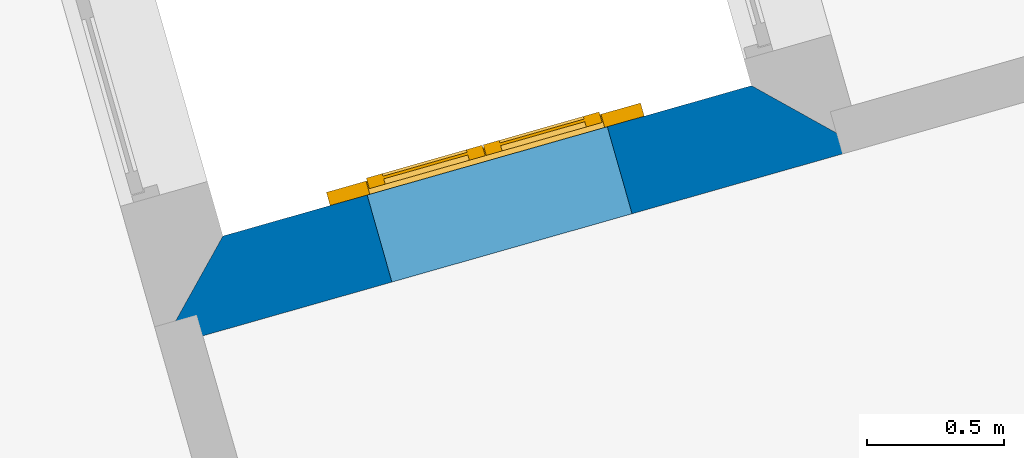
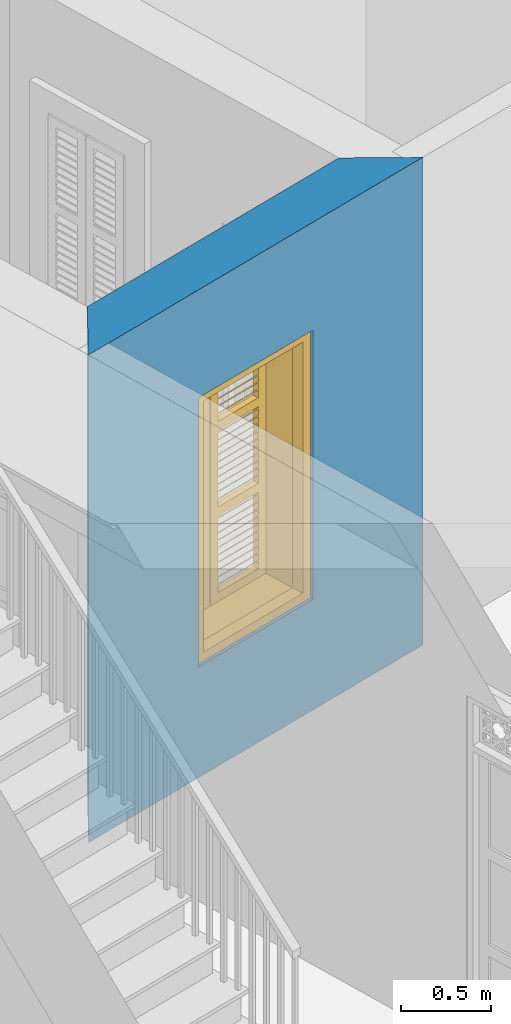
# One storey, part 6 of 14: 1 wall, 1 window, 1 opening.
"""IFC4 building model written with IfcOpenShell, lengths in metres."""

from ifc_helpers import new_model, si_unit, frame, origin, origin_with_axes, place, context, subcontext, project, spatial, polyline, outline, extrude, faceted_brep, source, transform, mapped, material, layer, layer_set, layer_usage, type_object, type_shapes, element, fill, save


model = new_model("IFC4")

# Units and contexts
model_context = context("Model", 3, world=origin_with_axes())
body_context = subcontext(model_context, "Body", "Model", "MODEL_VIEW")
ifc_project = project(units=[si_unit("PLANEANGLEUNIT", "RADIAN"), si_unit("MASSUNIT", "GRAM", prefix="KILO"), si_unit("FORCEUNIT", "NEWTON", prefix="KILO"), si_unit("LENGTHUNIT", "METRE"), si_unit("AREAUNIT", "SQUARE_METRE"), si_unit("VOLUMEUNIT", "CUBIC_METRE")], contexts=[model_context, model_context])

# Site, building, storey
site_placement = place(None, origin_with_axes())
site = spatial("IfcSite", under=ifc_project, at=site_placement, Name="Site plot-3", CompositionType="ELEMENT")
building_placement = place(None, origin_with_axes())
building = spatial("IfcBuilding", under=site, at=building_placement, Name="Building plot-3", CompositionType="ELEMENT")
storey_placement = place(None, origin_with_axes())
storey = spatial("IfcBuildingStorey", under=building, at=storey_placement, Name="plot-3 0", CompositionType="ELEMENT", Elevation=0.0)

# Wall, opening, window
ifc_material = material(Name="Masonry")
ifc_layer = layer(ifc_material, 0.33, ventilated=False)
ifc_layer_set = layer_set([ifc_layer], Name="exterior_0.08_0.25")
ifc_layer_usage = layer_usage(ifc_layer_set, "AXIS2", "POSITIVE", -0.25)
wall_type = type_object("IfcWallType", Name="exterior_0.08_0.25", PredefinedType="SOLIDWALL", material=ifc_layer_set)
wall_placement = place(storey_placement, frame((14.0119539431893, 20.3860923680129, 0.0), z_axis=(0.0, 0.0, 1.0), x_axis=(-0.961841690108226, -0.273606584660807, 0.0)))
wall = element("IfcWall", 1, at=wall_placement, inside=storey, type_object=wall_type, material=ifc_layer_usage, Name="exterior", context=body_context, shape_type="SweptSolid", body=[
    extrude(outline(polyline([(-0.0800000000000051, 0.0799999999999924), (0.250000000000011, -0.249999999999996), (2.2529377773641, -0.25), (2.58293777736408, 0.0799999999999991), (-0.0800000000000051, 0.0799999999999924)])), origin_with_axes(), (0.0, 0.0, 1.0), 3.3),
])
opening_placement = place(wall_placement, frame((0.796468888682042, 0.0, 0.75)))
opening = element("IfcOpeningElement", 2, at=opening_placement, cuts=wall, Name="My Opening", ObjectType="Opening", context=body_context, shape_type="SweptSolid", body=[
    extrude(outline(polyline([(0.0, -0.270000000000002), (0.910000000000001, -0.27), (0.91, 1.1), (-1.55431223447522e-15, 1.1), (0.0, -0.270000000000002)])), origin_with_axes(), (0.0, 0.0, 1.0), 1.82),
])
window_type = type_object("IfcWindowType", Name="shuttered_big", PartitioningType="DOUBLE_PANEL_HORIZONTAL", PredefinedType="NOTDEFINED")
shared_shape = source(origin(), body_context, "Body", "Brep", [
    faceted_brep([(0.074, 0.0, 0.810667), (0.393, 0.0, 0.810667), (0.393, 0.0, 0.800667), (0.074, 0.0, 0.800667), (0.074, -0.04, 0.770667), (0.393, -0.04, 0.770667), (0.393, -0.04, 0.760667), (0.074, -0.04, 0.760667), (0.517, 0.0, 0.232), (0.836, 0.0, 0.232), (0.836, 0.0, 0.222), (0.517, 0.0, 0.222), (0.517, -0.04, 0.192), (0.836, -0.04, 0.192), (0.836, -0.04, 0.182), (0.517, -0.04, 0.182), (0.517, 0.0, 0.532), (0.836, 0.0, 0.532), (0.836, 0.0, 0.522), (0.517, 0.0, 0.522), (0.517, -0.04, 0.492), (0.836, -0.04, 0.492), (0.836, -0.04, 0.482), (0.517, -0.04, 0.482), (0.517, 0.0, 0.482), (0.836, 0.0, 0.482), (0.836, 0.0, 0.472), (0.517, 0.0, 0.472), (0.517, -0.04, 0.442), (0.836, -0.04, 0.442), (0.836, -0.04, 0.432), (0.517, -0.04, 0.432), (0.517, 0.0, 0.582), (0.836, 0.0, 0.582), (0.836, 0.0, 0.572), (0.517, 0.0, 0.572), (0.517, -0.04, 0.542), (0.836, -0.04, 0.542), (0.836, -0.04, 0.532), (0.517, -0.04, 0.532), (0.517, 0.0, 0.182), (0.836, 0.0, 0.182), (0.836, 0.0, 0.172), (0.517, 0.0, 0.172), (0.517, -0.04, 0.142), (0.836, -0.04, 0.142), (0.836, -0.04, 0.132), (0.517, -0.04, 0.132), (0.517, 0.0, 0.382), (0.836, 0.0, 0.382), (0.836, 0.0, 0.372), (0.517, 0.0, 0.372), (0.517, -0.04, 0.342), (0.836, -0.04, 0.342), (0.836, -0.04, 0.332), (0.517, -0.04, 0.332), (0.517, 0.0, 0.432), (0.836, 0.0, 0.432), (0.836, 0.0, 0.422), (0.517, 0.0, 0.422), (0.517, -0.04, 0.392), (0.836, -0.04, 0.392), (0.836, -0.04, 0.382), (0.517, -0.04, 0.382), (0.517, 0.0, 0.132), (0.836, 0.0, 0.132), (0.836, 0.0, 0.122), (0.517, 0.0, 0.122), (0.517, -0.04, 0.092), (0.836, -0.04, 0.092), (0.836, -0.04, 0.082), (0.517, -0.04, 0.082), (0.517, 0.0, 0.282), (0.836, 0.0, 0.282), (0.836, 0.0, 0.272), (0.517, 0.0, 0.272), (0.517, -0.04, 0.242), (0.836, -0.04, 0.242), (0.836, -0.04, 0.232), (0.517, -0.04, 0.232), (0.517, 0.0, 0.332), (0.836, 0.0, 0.332), (0.836, 0.0, 0.322), (0.517, 0.0, 0.322), (0.517, -0.04, 0.292), (0.836, -0.04, 0.292), (0.836, -0.04, 0.282), (0.517, -0.04, 0.282), (0.517, 0.0, 0.810667), (0.836, 0.0, 0.810667), (0.836, 0.0, 0.800667), (0.517, 0.0, 0.800667), (0.517, -0.04, 0.770667), (0.836, -0.04, 0.770667), (0.836, -0.04, 0.760667), (0.517, -0.04, 0.760667), (0.517, 0.0, 1.110667), (0.836, 0.0, 1.110667), (0.836, 0.0, 1.100667), (0.517, 0.0, 1.100667), (0.517, -0.04, 1.070667), (0.836, -0.04, 1.070667), (0.836, -0.04, 1.060667), (0.517, -0.04, 1.060667), (0.517, 0.0, 1.060667), (0.836, 0.0, 1.060667), (0.836, 0.0, 1.050667), (0.517, 0.0, 1.050667), (0.517, -0.04, 1.020667), (0.836, -0.04, 1.020667), (0.836, -0.04, 1.010667), (0.517, -0.04, 1.010667), (0.517, 0.0, 1.160667), (0.836, 0.0, 1.160667), (0.836, 0.0, 1.150667), (0.517, 0.0, 1.150667), (0.517, -0.04, 1.120667), (0.836, -0.04, 1.120667), (0.836, -0.04, 1.110667), (0.517, -0.04, 1.110667), (0.517, 0.0, 0.760667), (0.836, 0.0, 0.760667), (0.836, 0.0, 0.750667), (0.517, 0.0, 0.750667), (0.517, -0.04, 0.720667), (0.836, -0.04, 0.720667), (0.836, -0.04, 0.710667), (0.517, -0.04, 0.710667), (0.517, 0.0, 0.960667), (0.836, 0.0, 0.960667), (0.836, 0.0, 0.950667), (0.517, 0.0, 0.950667), (0.517, -0.04, 0.920667), (0.836, -0.04, 0.920667), (0.836, -0.04, 0.910667), (0.517, -0.04, 0.910667), (0.517, 0.0, 1.010667), (0.836, 0.0, 1.010667), (0.836, 0.0, 1.0), (0.517, 0.0, 1.0), (0.517, -0.04, 0.970667), (0.836, -0.04, 0.970667), (0.836, -0.04, 0.960667), (0.517, -0.04, 0.960667), (0.517, 0.0, 0.710667), (0.836, 0.0, 0.710667), (0.836, 0.0, 0.700667), (0.517, 0.0, 0.700667), (0.517, -0.04, 0.670667), (0.836, -0.04, 0.670667), (0.836, -0.04, 0.660667), (0.517, -0.04, 0.660667), (0.517, 0.0, 0.860667), (0.836, 0.0, 0.860667), (0.836, 0.0, 0.850667), (0.517, 0.0, 0.850667), (0.517, -0.04, 0.820667), (0.836, -0.04, 0.820667), (0.836, -0.04, 0.810667), (0.517, -0.04, 0.810667), (0.517, 0.0, 0.910667), (0.836, 0.0, 0.910667), (0.836, 0.0, 0.900667), (0.517, 0.0, 0.900667), (0.517, -0.04, 0.870667), (0.836, -0.04, 0.870667), (0.836, -0.04, 0.860667), (0.517, -0.04, 0.860667), (0.517, 0.0, 1.389333), (0.836, 0.0, 1.389333), (0.836, 0.0, 1.379333), (0.517, 0.0, 1.379333), (0.517, -0.04, 1.349333), (0.836, -0.04, 1.349333), (0.836, -0.04, 1.339333), (0.517, -0.04, 1.339333), (0.517, 0.0, 1.689333), (0.836, 0.0, 1.689333), (0.836, 0.0, 1.679333), (0.517, 0.0, 1.679333), (0.517, -0.04, 1.649333), (0.836, -0.04, 1.649333), (0.836, -0.04, 1.639333), (0.517, -0.04, 1.639333), (0.517, 0.0, 1.639333), (0.836, 0.0, 1.639333), (0.836, 0.0, 1.629333), (0.517, 0.0, 1.629333), (0.517, -0.04, 1.599333), (0.836, -0.04, 1.599333), (0.836, -0.04, 1.589333), (0.517, -0.04, 1.589333), (0.517, 0.0, 1.739333), (0.836, 0.0, 1.739333), (0.836, 0.0, 1.729333), (0.517, 0.0, 1.729333), (0.517, -0.04, 1.699333), (0.836, -0.04, 1.699333), (0.836, -0.04, 1.689333), (0.517, -0.04, 1.689333), (0.517, 0.0, 1.339333), (0.836, 0.0, 1.339333), (0.836, 0.0, 1.329333), (0.517, 0.0, 1.329333), (0.517, -0.04, 1.299333), (0.836, -0.04, 1.299333), (0.836, -0.04, 1.289333), (0.517, -0.04, 1.289333), (0.517, 0.0, 1.539333), (0.836, 0.0, 1.539333), (0.836, 0.0, 1.529333), (0.517, 0.0, 1.529333), (0.517, -0.04, 1.499333), (0.836, -0.04, 1.499333), (0.836, -0.04, 1.489333), (0.517, -0.04, 1.489333), (0.517, 0.0, 1.589333), (0.836, 0.0, 1.589333), (0.836, 0.0, 1.579333), (0.517, 0.0, 1.579333), (0.517, -0.04, 1.549333), (0.836, -0.04, 1.549333), (0.836, -0.04, 1.539333), (0.517, -0.04, 1.539333), (0.517, 0.0, 1.289333), (0.836, 0.0, 1.289333), (0.836, 0.0, 1.279333), (0.517, 0.0, 1.279333), (0.517, -0.04, 1.249333), (0.836, -0.04, 1.249333), (0.836, -0.04, 1.239333), (0.517, -0.04, 1.239333), (0.517, 0.0, 1.439333), (0.836, 0.0, 1.439333), (0.836, 0.0, 1.429333), (0.517, 0.0, 1.429333), (0.517, -0.04, 1.399333), (0.836, -0.04, 1.399333), (0.836, -0.04, 1.389333), (0.517, -0.04, 1.389333), (0.517, 0.0, 1.489333), (0.836, 0.0, 1.489333), (0.836, 0.0, 1.479333), (0.517, 0.0, 1.479333), (0.517, -0.04, 1.449333), (0.836, -0.04, 1.449333), (0.836, -0.04, 1.439333), (0.517, -0.04, 1.439333), (0.074, 0.0, 0.232), (0.393, 0.0, 0.232), (0.393, 0.0, 0.222), (0.074, 0.0, 0.222), (0.074, -0.04, 0.192), (0.393, -0.04, 0.192), (0.393, -0.04, 0.182), (0.074, -0.04, 0.182), (0.074, 0.0, 0.532), (0.393, 0.0, 0.532), (0.393, 0.0, 0.522), (0.074, 0.0, 0.522), (0.074, -0.04, 0.492), (0.393, -0.04, 0.492), (0.393, -0.04, 0.482), (0.074, -0.04, 0.482), (0.074, 0.0, 0.482), (0.393, 0.0, 0.482), (0.393, 0.0, 0.472), (0.074, 0.0, 0.472), (0.074, -0.04, 0.442), (0.393, -0.04, 0.442), (0.393, -0.04, 0.432), (0.074, -0.04, 0.432), (0.074, 0.0, 0.582), (0.393, 0.0, 0.582), (0.393, 0.0, 0.572), (0.074, 0.0, 0.572), (0.074, -0.04, 0.542), (0.393, -0.04, 0.542), (0.393, -0.04, 0.532), (0.074, -0.04, 0.532), (0.074, 0.0, 0.182), (0.393, 0.0, 0.182), (0.393, 0.0, 0.172), (0.074, 0.0, 0.172), (0.074, -0.04, 0.142), (0.393, -0.04, 0.142), (0.393, -0.04, 0.132), (0.074, -0.04, 0.132), (0.074, 0.0, 0.382), (0.393, 0.0, 0.382), (0.393, 0.0, 0.372), (0.074, 0.0, 0.372), (0.074, -0.04, 0.342), (0.393, -0.04, 0.342), (0.393, -0.04, 0.332), (0.074, -0.04, 0.332), (0.074, 0.0, 0.432), (0.393, 0.0, 0.432), (0.393, 0.0, 0.422), (0.074, 0.0, 0.422), (0.074, -0.04, 0.392), (0.393, -0.04, 0.392), (0.393, -0.04, 0.382), (0.074, -0.04, 0.382), (0.074, 0.0, 0.132), (0.393, 0.0, 0.132), (0.393, 0.0, 0.122), (0.074, 0.0, 0.122), (0.074, -0.04, 0.092), (0.393, -0.04, 0.092), (0.393, -0.04, 0.082), (0.074, -0.04, 0.082), (0.074, 0.0, 0.282), (0.393, 0.0, 0.282), (0.393, 0.0, 0.272), (0.074, 0.0, 0.272), (0.074, -0.04, 0.242), (0.393, -0.04, 0.242), (0.393, -0.04, 0.232), (0.074, -0.04, 0.232), (0.074, 0.0, 0.332), (0.393, 0.0, 0.332), (0.393, 0.0, 0.322), (0.074, 0.0, 0.322), (0.074, -0.04, 0.292), (0.393, -0.04, 0.292), (0.393, -0.04, 0.282), (0.074, -0.04, 0.282), (0.074, 0.0, 1.110667), (0.393, 0.0, 1.110667), (0.393, 0.0, 1.100667), (0.074, 0.0, 1.100667), (0.074, -0.04, 1.070667), (0.393, -0.04, 1.070667), (0.393, -0.04, 1.060667), (0.074, -0.04, 1.060667), (0.074, 0.0, 1.060667), (0.393, 0.0, 1.060667), (0.393, 0.0, 1.050667), (0.074, 0.0, 1.050667), (0.074, -0.04, 1.020667), (0.393, -0.04, 1.020667), (0.393, -0.04, 1.010667), (0.074, -0.04, 1.010667), (0.074, 0.0, 1.160667), (0.393, 0.0, 1.160667), (0.393, 0.0, 1.150667), (0.074, 0.0, 1.150667), (0.074, -0.04, 1.120667), (0.393, -0.04, 1.120667), (0.393, -0.04, 1.110667), (0.074, -0.04, 1.110667), (0.074, 0.0, 0.760667), (0.393, 0.0, 0.760667), (0.393, 0.0, 0.750667), (0.074, 0.0, 0.750667), (0.074, -0.04, 0.720667), (0.393, -0.04, 0.720667), (0.393, -0.04, 0.710667), (0.074, -0.04, 0.710667), (0.074, 0.0, 0.960667), (0.393, 0.0, 0.960667), (0.393, 0.0, 0.950667), (0.074, 0.0, 0.950667), (0.074, -0.04, 0.920667), (0.393, -0.04, 0.920667), (0.393, -0.04, 0.910667), (0.074, -0.04, 0.910667), (0.074, 0.0, 1.010667), (0.393, 0.0, 1.010667), (0.393, 0.0, 1.0), (0.074, 0.0, 1.0), (0.074, -0.04, 0.970667), (0.393, -0.04, 0.970667), (0.393, -0.04, 0.960667), (0.074, -0.04, 0.960667), (0.074, 0.0, 0.710667), (0.393, 0.0, 0.710667), (0.393, 0.0, 0.700667), (0.074, 0.0, 0.700667), (0.074, -0.04, 0.670667), (0.393, -0.04, 0.670667), (0.393, -0.04, 0.660667), (0.074, -0.04, 0.660667), (0.074, 0.0, 0.860667), (0.393, 0.0, 0.860667), (0.393, 0.0, 0.850667), (0.074, 0.0, 0.850667), (0.074, -0.04, 0.820667), (0.393, -0.04, 0.820667), (0.393, -0.04, 0.810667), (0.074, -0.04, 0.810667), (0.074, 0.0, 0.910667), (0.393, 0.0, 0.910667), (0.393, 0.0, 0.900667), (0.074, 0.0, 0.900667), (0.074, -0.04, 0.870667), (0.393, -0.04, 0.870667), (0.393, -0.04, 0.860667), (0.074, -0.04, 0.860667), (0.074, 0.0, 1.389333), (0.393, 0.0, 1.389333), (0.393, 0.0, 1.379333), (0.074, 0.0, 1.379333), (0.074, -0.04, 1.349333), (0.393, -0.04, 1.349333), (0.393, -0.04, 1.339333), (0.074, -0.04, 1.339333), (0.074, 0.0, 1.689333), (0.393, 0.0, 1.689333), (0.393, 0.0, 1.679333), (0.074, 0.0, 1.679333), (0.074, -0.04, 1.649333), (0.393, -0.04, 1.649333), (0.393, -0.04, 1.639333), (0.074, -0.04, 1.639333), (0.074, 0.0, 1.639333), (0.393, 0.0, 1.639333), (0.393, 0.0, 1.629333), (0.074, 0.0, 1.629333), (0.074, -0.04, 1.599333), (0.393, -0.04, 1.599333), (0.393, -0.04, 1.589333), (0.074, -0.04, 1.589333), (0.074, 0.0, 1.739333), (0.393, 0.0, 1.739333), (0.393, 0.0, 1.729333), (0.074, 0.0, 1.729333), (0.074, -0.04, 1.699333), (0.393, -0.04, 1.699333), (0.393, -0.04, 1.689333), (0.074, -0.04, 1.689333), (0.074, 0.0, 1.339333), (0.393, 0.0, 1.339333), (0.393, 0.0, 1.329333), (0.074, 0.0, 1.329333), (0.074, -0.04, 1.299333), (0.393, -0.04, 1.299333), (0.393, -0.04, 1.289333), (0.074, -0.04, 1.289333), (0.074, 0.0, 1.539333), (0.393, 0.0, 1.539333), (0.393, 0.0, 1.529333), (0.074, 0.0, 1.529333), (0.074, -0.04, 1.499333), (0.393, -0.04, 1.499333), (0.393, -0.04, 1.489333), (0.074, -0.04, 1.489333), (0.074, 0.0, 1.589333), (0.393, 0.0, 1.589333), (0.393, 0.0, 1.579333), (0.074, 0.0, 1.579333), (0.074, -0.04, 1.549333), (0.393, -0.04, 1.549333), (0.393, -0.04, 1.539333), (0.074, -0.04, 1.539333), (0.074, 0.0, 1.289333), (0.393, 0.0, 1.289333), (0.393, 0.0, 1.279333), (0.074, 0.0, 1.279333), (0.074, -0.04, 1.249333), (0.393, -0.04, 1.249333), (0.393, -0.04, 1.239333), (0.074, -0.04, 1.239333), (0.074, 0.0, 1.439333), (0.393, 0.0, 1.439333), (0.393, 0.0, 1.429333), (0.074, 0.0, 1.429333), (0.074, -0.04, 1.399333), (0.393, -0.04, 1.399333), (0.393, -0.04, 1.389333), (0.074, -0.04, 1.389333), (0.074, 0.0, 1.489333), (0.393, 0.0, 1.489333), (0.393, 0.0, 1.479333), (0.074, 0.0, 1.479333), (0.074, -0.04, 1.449333), (0.393, -0.04, 1.449333), (0.393, -0.04, 1.439333), (0.074, -0.04, 1.439333), (0.517, -0.04, 0.072), (0.457, -0.04, 0.012), (0.896, -0.04, 0.012), (0.836, -0.04, 0.072), (0.457, -0.04, 0.590667), (0.517, -0.04, 0.590667), (0.457, 0.0, 0.012), (0.896, 0.0, 0.012), (0.836, -0.04, 0.590667), (0.896, -0.04, 0.590667), (0.836, 0.0, 0.072), (0.517, 0.0, 0.072), (0.457, 0.0, 0.590667), (0.517, 0.0, 0.590667), (0.517, -0.04, 0.650667), (0.457, -0.04, 0.650667), (0.896, 0.0, 0.590667), (0.836, 0.0, 0.590667), (0.836, -0.04, 0.650667), (0.896, -0.04, 0.650667), (0.457, 0.0, 0.650667), (0.457, -0.04, 1.169333), (0.517, -0.04, 1.169333), (0.896, 0.0, 0.650667), (0.836, -0.04, 1.169333), (0.896, -0.04, 1.169333), (0.457, 0.0, 1.169333), (0.517, 0.0, 0.650667), (0.836, 0.0, 0.650667), (0.517, 0.0, 1.169333), (0.517, -0.04, 1.229333), (0.457, -0.04, 1.229333), (0.896, 0.0, 1.169333), (0.836, 0.0, 1.169333), (0.836, -0.04, 1.229333), (0.896, -0.04, 1.229333), (0.457, 0.0, 1.229333), (0.517, -0.04, 1.748), (0.457, -0.04, 1.808), (0.896, 0.0, 1.229333), (0.896, -0.04, 1.808), (0.836, -0.04, 1.748), (0.457, 0.0, 1.808), (0.517, 0.0, 1.229333), (0.836, 0.0, 1.229333), (0.517, 0.0, 1.748), (0.896, 0.0, 1.808), (0.836, 0.0, 1.748), (0.074, -0.04, 0.072), (0.014, -0.04, 0.012), (0.453, -0.04, 0.012), (0.393, -0.04, 0.072), (0.014, -0.04, 0.590667), (0.074, -0.04, 0.590667), (0.014, 0.0, 0.012), (0.453, 0.0, 0.012), (0.393, -0.04, 0.590667), (0.453, -0.04, 0.590667), (0.393, 0.0, 0.072), (0.074, 0.0, 0.072), (0.014, 0.0, 0.590667), (0.074, 0.0, 0.590667), (0.074, -0.04, 0.650667), (0.014, -0.04, 0.650667), (0.453, 0.0, 0.590667), (0.393, 0.0, 0.590667), (0.393, -0.04, 0.650667), (0.453, -0.04, 0.650667), (0.014, 0.0, 0.650667), (0.014, -0.04, 1.169333), (0.074, -0.04, 1.169333), (0.453, 0.0, 0.650667), (0.393, -0.04, 1.169333), (0.453, -0.04, 1.169333), (0.014, 0.0, 1.169333), (0.074, 0.0, 0.650667), (0.393, 0.0, 0.650667), (0.074, 0.0, 1.169333), (0.074, -0.04, 1.229333), (0.014, -0.04, 1.229333), (0.453, 0.0, 1.169333), (0.393, 0.0, 1.169333), (0.393, -0.04, 1.229333), (0.453, -0.04, 1.229333), (0.014, 0.0, 1.229333), (0.074, -0.04, 1.748), (0.014, -0.04, 1.808), (0.453, 0.0, 1.229333), (0.453, -0.04, 1.808), (0.393, -0.04, 1.748), (0.014, 0.0, 1.808), (0.074, 0.0, 1.229333), (0.393, 0.0, 1.229333), (0.074, 0.0, 1.748), (0.453, 0.0, 1.808), (0.393, 0.0, 1.748), (0.0, 0.33, 1.82), (0.91, 0.33, 1.82), (0.85, 0.33, 1.76), (0.06, 0.33, 1.76), (1.05, -0.03, 1.96), (1.05, 0.25, 1.96), (-0.14, 0.25, 1.96), (-0.14, -0.03, 1.96), (0.0, 0.25, 1.82), (0.91, 0.25, 1.82), (0.9, 0.25, 1.81), (0.01, 0.25, 1.81), (0.85, 0.33, 0.06), (0.91, 0.33, 0.0), (0.85, 0.25, 1.76), (0.06, 0.25, 1.76), (0.0, 0.33, 0.0), (0.06, 0.33, 0.06), (0.0, 0.25, 0.0), (0.910046, 0.25, 1.82), (0.91, 0.25, 0.0), (0.85, 0.25, 0.06), (0.06, 0.25, 0.06), (0.9, 0.25, 0.01), (0.9, -0.03, 0.01), (0.9, -0.03, 1.81), (0.01, -0.03, 0.01), (-0.14, -0.03, -0.14), (1.05, -0.03, -0.14), (0.01, -0.03, 1.81), (0.01, 0.25, 0.01), (1.05, 0.25, -0.14), (-0.14, 0.25, -0.14)], [[[0, 1, 2, 3]], [[1, 0, 4, 5]], [[2, 1, 5, 6]], [[6, 7, 3, 2]], [[7, 4, 0, 3]], [[5, 4, 7, 6]], [[8, 9, 10, 11]], [[12, 13, 9, 8]], [[13, 14, 10, 9]], [[14, 15, 11, 10]], [[15, 12, 8, 11]], [[13, 12, 15, 14]], [[16, 17, 18, 19]], [[20, 21, 17, 16]], [[21, 22, 18, 17]], [[22, 23, 19, 18]], [[23, 20, 16, 19]], [[21, 20, 23, 22]], [[24, 25, 26, 27]], [[28, 29, 25, 24]], [[29, 30, 26, 25]], [[30, 31, 27, 26]], [[31, 28, 24, 27]], [[29, 28, 31, 30]], [[32, 33, 34, 35]], [[36, 37, 33, 32]], [[37, 38, 34, 33]], [[38, 39, 35, 34]], [[39, 36, 32, 35]], [[37, 36, 39, 38]], [[40, 41, 42, 43]], [[44, 45, 41, 40]], [[45, 46, 42, 41]], [[46, 47, 43, 42]], [[47, 44, 40, 43]], [[45, 44, 47, 46]], [[48, 49, 50, 51]], [[52, 53, 49, 48]], [[53, 54, 50, 49]], [[54, 55, 51, 50]], [[55, 52, 48, 51]], [[53, 52, 55, 54]], [[56, 57, 58, 59]], [[60, 61, 57, 56]], [[61, 62, 58, 57]], [[62, 63, 59, 58]], [[63, 60, 56, 59]], [[61, 60, 63, 62]], [[64, 65, 66, 67]], [[68, 69, 65, 64]], [[69, 70, 66, 65]], [[70, 71, 67, 66]], [[71, 68, 64, 67]], [[69, 68, 71, 70]], [[72, 73, 74, 75]], [[76, 77, 73, 72]], [[77, 78, 74, 73]], [[78, 79, 75, 74]], [[79, 76, 72, 75]], [[77, 76, 79, 78]], [[80, 81, 82, 83]], [[84, 85, 81, 80]], [[85, 86, 82, 81]], [[86, 87, 83, 82]], [[87, 84, 80, 83]], [[85, 84, 87, 86]], [[88, 89, 90, 91]], [[92, 93, 89, 88]], [[93, 94, 90, 89]], [[94, 95, 91, 90]], [[95, 92, 88, 91]], [[93, 92, 95, 94]], [[96, 97, 98, 99]], [[100, 101, 97, 96]], [[101, 102, 98, 97]], [[102, 103, 99, 98]], [[103, 100, 96, 99]], [[101, 100, 103, 102]], [[104, 105, 106, 107]], [[108, 109, 105, 104]], [[109, 110, 106, 105]], [[110, 111, 107, 106]], [[111, 108, 104, 107]], [[109, 108, 111, 110]], [[112, 113, 114, 115]], [[116, 117, 113, 112]], [[117, 118, 114, 113]], [[118, 119, 115, 114]], [[119, 116, 112, 115]], [[117, 116, 119, 118]], [[120, 121, 122, 123]], [[124, 125, 121, 120]], [[125, 126, 122, 121]], [[126, 127, 123, 122]], [[127, 124, 120, 123]], [[125, 124, 127, 126]], [[128, 129, 130, 131]], [[132, 133, 129, 128]], [[133, 134, 130, 129]], [[134, 135, 131, 130]], [[135, 132, 128, 131]], [[133, 132, 135, 134]], [[136, 137, 138, 139]], [[140, 141, 137, 136]], [[141, 142, 138, 137]], [[142, 143, 139, 138]], [[143, 140, 136, 139]], [[141, 140, 143, 142]], [[144, 145, 146, 147]], [[148, 149, 145, 144]], [[149, 150, 146, 145]], [[150, 151, 147, 146]], [[151, 148, 144, 147]], [[149, 148, 151, 150]], [[152, 153, 154, 155]], [[156, 157, 153, 152]], [[157, 158, 154, 153]], [[158, 159, 155, 154]], [[159, 156, 152, 155]], [[157, 156, 159, 158]], [[160, 161, 162, 163]], [[164, 165, 161, 160]], [[165, 166, 162, 161]], [[166, 167, 163, 162]], [[167, 164, 160, 163]], [[165, 164, 167, 166]], [[168, 169, 170, 171]], [[172, 173, 169, 168]], [[173, 174, 170, 169]], [[174, 175, 171, 170]], [[175, 172, 168, 171]], [[173, 172, 175, 174]], [[176, 177, 178, 179]], [[180, 181, 177, 176]], [[181, 182, 178, 177]], [[182, 183, 179, 178]], [[183, 180, 176, 179]], [[181, 180, 183, 182]], [[184, 185, 186, 187]], [[188, 189, 185, 184]], [[189, 190, 186, 185]], [[190, 191, 187, 186]], [[191, 188, 184, 187]], [[189, 188, 191, 190]], [[192, 193, 194, 195]], [[196, 197, 193, 192]], [[197, 198, 194, 193]], [[198, 199, 195, 194]], [[199, 196, 192, 195]], [[197, 196, 199, 198]], [[200, 201, 202, 203]], [[204, 205, 201, 200]], [[205, 206, 202, 201]], [[206, 207, 203, 202]], [[207, 204, 200, 203]], [[205, 204, 207, 206]], [[208, 209, 210, 211]], [[212, 213, 209, 208]], [[213, 214, 210, 209]], [[214, 215, 211, 210]], [[215, 212, 208, 211]], [[213, 212, 215, 214]], [[216, 217, 218, 219]], [[220, 221, 217, 216]], [[221, 222, 218, 217]], [[222, 223, 219, 218]], [[223, 220, 216, 219]], [[221, 220, 223, 222]], [[224, 225, 226, 227]], [[228, 229, 225, 224]], [[229, 230, 226, 225]], [[230, 231, 227, 226]], [[231, 228, 224, 227]], [[229, 228, 231, 230]], [[232, 233, 234, 235]], [[236, 237, 233, 232]], [[237, 238, 234, 233]], [[238, 239, 235, 234]], [[239, 236, 232, 235]], [[237, 236, 239, 238]], [[240, 241, 242, 243]], [[244, 245, 241, 240]], [[245, 246, 242, 241]], [[246, 247, 243, 242]], [[247, 244, 240, 243]], [[245, 244, 247, 246]], [[248, 249, 250, 251]], [[252, 253, 249, 248]], [[253, 254, 250, 249]], [[254, 255, 251, 250]], [[255, 252, 248, 251]], [[253, 252, 255, 254]], [[256, 257, 258, 259]], [[260, 261, 257, 256]], [[261, 262, 258, 257]], [[262, 263, 259, 258]], [[263, 260, 256, 259]], [[261, 260, 263, 262]], [[264, 265, 266, 267]], [[268, 269, 265, 264]], [[269, 270, 266, 265]], [[270, 271, 267, 266]], [[271, 268, 264, 267]], [[269, 268, 271, 270]], [[272, 273, 274, 275]], [[276, 277, 273, 272]], [[277, 278, 274, 273]], [[278, 279, 275, 274]], [[279, 276, 272, 275]], [[277, 276, 279, 278]], [[280, 281, 282, 283]], [[284, 285, 281, 280]], [[285, 286, 282, 281]], [[286, 287, 283, 282]], [[287, 284, 280, 283]], [[285, 284, 287, 286]], [[288, 289, 290, 291]], [[292, 293, 289, 288]], [[293, 294, 290, 289]], [[294, 295, 291, 290]], [[295, 292, 288, 291]], [[293, 292, 295, 294]], [[296, 297, 298, 299]], [[300, 301, 297, 296]], [[301, 302, 298, 297]], [[302, 303, 299, 298]], [[303, 300, 296, 299]], [[301, 300, 303, 302]], [[304, 305, 306, 307]], [[308, 309, 305, 304]], [[309, 310, 306, 305]], [[310, 311, 307, 306]], [[311, 308, 304, 307]], [[309, 308, 311, 310]], [[312, 313, 314, 315]], [[316, 317, 313, 312]], [[317, 318, 314, 313]], [[318, 319, 315, 314]], [[319, 316, 312, 315]], [[317, 316, 319, 318]], [[320, 321, 322, 323]], [[324, 325, 321, 320]], [[325, 326, 322, 321]], [[326, 327, 323, 322]], [[327, 324, 320, 323]], [[325, 324, 327, 326]], [[328, 329, 330, 331]], [[332, 333, 329, 328]], [[333, 334, 330, 329]], [[334, 335, 331, 330]], [[335, 332, 328, 331]], [[333, 332, 335, 334]], [[336, 337, 338, 339]], [[340, 341, 337, 336]], [[341, 342, 338, 337]], [[342, 343, 339, 338]], [[343, 340, 336, 339]], [[341, 340, 343, 342]], [[344, 345, 346, 347]], [[348, 349, 345, 344]], [[349, 350, 346, 345]], [[350, 351, 347, 346]], [[351, 348, 344, 347]], [[349, 348, 351, 350]], [[352, 353, 354, 355]], [[356, 357, 353, 352]], [[357, 358, 354, 353]], [[358, 359, 355, 354]], [[359, 356, 352, 355]], [[357, 356, 359, 358]], [[360, 361, 362, 363]], [[364, 365, 361, 360]], [[365, 366, 362, 361]], [[366, 367, 363, 362]], [[367, 364, 360, 363]], [[366, 365, 364, 367]], [[368, 369, 370, 371]], [[372, 373, 369, 368]], [[373, 374, 370, 369]], [[374, 375, 371, 370]], [[375, 372, 368, 371]], [[373, 372, 375, 374]], [[376, 377, 378, 379]], [[380, 381, 377, 376]], [[381, 382, 378, 377]], [[382, 383, 379, 378]], [[383, 380, 376, 379]], [[381, 380, 383, 382]], [[384, 385, 386, 387]], [[388, 389, 385, 384]], [[389, 390, 386, 385]], [[390, 391, 387, 386]], [[391, 388, 384, 387]], [[389, 388, 391, 390]], [[392, 393, 394, 395]], [[396, 397, 393, 392]], [[397, 398, 394, 393]], [[398, 399, 395, 394]], [[399, 396, 392, 395]], [[397, 396, 399, 398]], [[400, 401, 402, 403]], [[404, 405, 401, 400]], [[405, 406, 402, 401]], [[406, 407, 403, 402]], [[407, 404, 400, 403]], [[405, 404, 407, 406]], [[408, 409, 410, 411]], [[412, 413, 409, 408]], [[413, 414, 410, 409]], [[414, 415, 411, 410]], [[415, 412, 408, 411]], [[414, 413, 412, 415]], [[416, 417, 418, 419]], [[420, 421, 417, 416]], [[421, 422, 418, 417]], [[422, 423, 419, 418]], [[423, 420, 416, 419]], [[421, 420, 423, 422]], [[424, 425, 426, 427]], [[428, 429, 425, 424]], [[429, 430, 426, 425]], [[430, 431, 427, 426]], [[431, 428, 424, 427]], [[429, 428, 431, 430]], [[432, 433, 434, 435]], [[436, 437, 433, 432]], [[437, 438, 434, 433]], [[438, 439, 435, 434]], [[439, 436, 432, 435]], [[437, 436, 439, 438]], [[440, 441, 442, 443]], [[444, 445, 441, 440]], [[445, 446, 442, 441]], [[446, 447, 443, 442]], [[447, 444, 440, 443]], [[445, 444, 447, 446]], [[448, 449, 450, 451]], [[452, 453, 449, 448]], [[453, 454, 450, 449]], [[454, 455, 451, 450]], [[455, 452, 448, 451]], [[453, 452, 455, 454]], [[456, 457, 458, 459]], [[460, 461, 457, 456]], [[461, 462, 458, 457]], [[462, 463, 459, 458]], [[463, 460, 456, 459]], [[461, 460, 463, 462]], [[464, 465, 466, 467]], [[468, 469, 465, 464]], [[469, 470, 466, 465]], [[470, 471, 467, 466]], [[471, 468, 464, 467]], [[469, 468, 471, 470]], [[472, 473, 474, 475]], [[476, 477, 473, 472]], [[477, 478, 474, 473]], [[478, 479, 475, 474]], [[479, 476, 472, 475]], [[477, 476, 479, 478]], [[480, 481, 482, 483]], [[484, 481, 480, 485]], [[486, 487, 482, 481]], [[488, 483, 482, 489]], [[480, 483, 490, 491]], [[486, 481, 484, 492]], [[485, 480, 491, 493]], [[485, 494, 495, 484]], [[486, 491, 490, 487]], [[496, 489, 482, 487]], [[483, 488, 497, 490]], [[498, 488, 489, 499]], [[492, 484, 495, 500]], [[486, 492, 493, 491]], [[488, 485, 493, 497]], [[494, 485, 488, 498]], [[501, 495, 494, 502]], [[490, 497, 496, 487]], [[503, 499, 489, 496]], [[504, 498, 499, 505]], [[500, 495, 501, 506]], [[507, 493, 492, 500]], [[493, 507, 508, 497]], [[494, 498, 508, 507]], [[502, 494, 507, 509]], [[502, 510, 511, 501]], [[497, 508, 503, 496]], [[512, 505, 499, 503]], [[498, 504, 513, 508]], [[514, 504, 505, 515]], [[506, 501, 511, 516]], [[500, 506, 509, 507]], [[504, 502, 509, 513]], [[510, 502, 504, 514]], [[510, 517, 518, 511]], [[508, 513, 512, 503]], [[519, 515, 505, 512]], [[515, 520, 521, 514]], [[516, 511, 518, 522]], [[523, 509, 506, 516]], [[509, 523, 524, 513]], [[510, 514, 524, 523]], [[517, 510, 523, 525]], [[518, 517, 521, 520]], [[513, 524, 519, 512]], [[526, 520, 515, 519]], [[514, 521, 527, 524]], [[522, 518, 520, 526]], [[525, 523, 516, 522]], [[521, 517, 525, 527]], [[526, 519, 524, 527]], [[525, 522, 526, 527]], [[528, 529, 530, 531]], [[532, 529, 528, 533]], [[534, 535, 530, 529]], [[536, 531, 530, 537]], [[528, 531, 538, 539]], [[534, 529, 532, 540]], [[533, 528, 539, 541]], [[533, 542, 543, 532]], [[534, 539, 538, 535]], [[544, 537, 530, 535]], [[531, 536, 545, 538]], [[546, 536, 537, 547]], [[540, 532, 543, 548]], [[534, 540, 541, 539]], [[536, 533, 541, 545]], [[542, 533, 536, 546]], [[549, 543, 542, 550]], [[538, 545, 544, 535]], [[551, 547, 537, 544]], [[552, 546, 547, 553]], [[548, 543, 549, 554]], [[555, 541, 540, 548]], [[541, 555, 556, 545]], [[542, 546, 556, 555]], [[550, 542, 555, 557]], [[550, 558, 559, 549]], [[545, 556, 551, 544]], [[560, 553, 547, 551]], [[546, 552, 561, 556]], [[562, 552, 553, 563]], [[554, 549, 559, 564]], [[548, 554, 557, 555]], [[552, 550, 557, 561]], [[558, 550, 552, 562]], [[558, 565, 566, 559]], [[556, 561, 560, 551]], [[567, 563, 553, 560]], [[563, 568, 569, 562]], [[564, 559, 566, 570]], [[571, 557, 554, 564]], [[557, 571, 572, 561]], [[558, 562, 572, 571]], [[565, 558, 571, 573]], [[566, 565, 569, 568]], [[561, 572, 567, 560]], [[574, 568, 563, 567]], [[562, 569, 575, 572]], [[570, 566, 568, 574]], [[573, 571, 564, 570]], [[569, 565, 573, 575]], [[574, 567, 572, 575]], [[573, 570, 574, 575]], [[576, 577, 578, 579]], [[580, 581, 582, 583]], [[576, 584, 585, 577]], [[582, 581, 586, 587]], [[588, 578, 577, 589]], [[579, 578, 590, 591]], [[592, 576, 579, 593]], [[576, 592, 594, 584]], [[595, 584, 591, 590]], [[596, 585, 595]], [[595, 590, 597]], [[595, 597, 596]], [[589, 577, 585, 596]], [[578, 588, 597, 590]], [[589, 592, 593, 588]], [[593, 579, 591, 598]], [[592, 589, 596, 594]], [[598, 591, 584, 594]], [[594, 596, 597, 598]], [[588, 593, 598, 597]], [[599, 600, 601, 586]], [[602, 603, 604, 600]], [[601, 605, 587, 586]], [[600, 599, 606, 602]], [[607, 604, 603, 608]], [[599, 607, 608, 606]], [[605, 602, 606, 587]], [[602, 605, 583, 603]], [[600, 604, 580, 601]], [[580, 583, 605, 601]], [[606, 608, 582, 587]], [[599, 586, 581, 607]], [[582, 608, 603, 583]], [[580, 604, 607, 581]]]),
])
type_shapes(window_type, [shared_shape])
window_placement = place(storey_placement, frame((13.1720031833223, 20.4278704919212, 0.75), z_axis=(0.0, 0.0, 1.0), x_axis=(-0.875275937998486, -0.248981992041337, 0.0)))
window = element("IfcWindow", 3, at=window_placement, inside=storey, type_object=window_type, Name="bedroom sahn window", OverallHeight=1.82, OverallWidth=0.91, context=body_context, shape_type="MappedRepresentation", body=[
    mapped(shared_shape, transform((0.0, 0.0, 0.0), scale=1.0)),
])
fill(opening, window)

save(model, "model.ifc")
